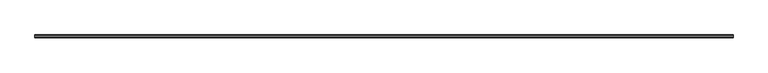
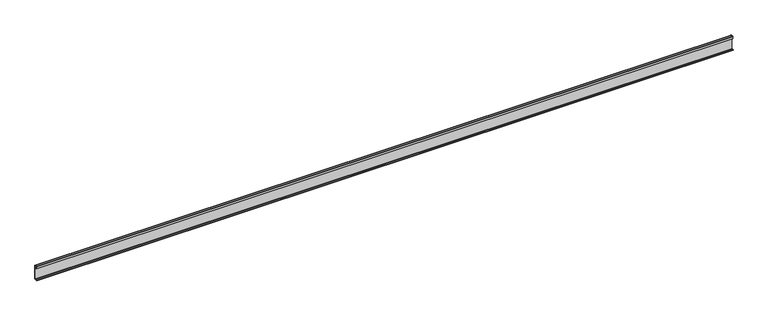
"""IFC4 building model written with IfcOpenShell, lengths in millimetres: proxy geometry, Weiku - Montante - Capa de folha 02.3.02.406 : Weiku - Montante - Capa de folha 02.3.02.406."""

import ifcopenshell
import ifcopenshell.guid

model = None  # the IFC model being written
_history = None  # IfcOwnerHistory: only IFC2X3 demands one
_inside = {}  # id of a spatial element -> (the spatial element, [elements in it])
_under = {}  # id of a project, library or spatial element -> (it, [spatial elements below it])
_declared = {}  # id of a project -> (the project, [libraries it declares])
_typed = {}  # id of a type object -> (the type object, [elements of that type])
_made_of = {}  # id of a material, layer set ... -> (it, [elements and type objects made of it])


def new_model(schema):
    """Start an empty IFC model of exactly this schema.

    Asked for "IFC4X3", IfcOpenShell would pick the latest addendum, in which some entities
    have other attributes; the version numbers below select the first issue.
    IFC2X3 requires an IfcOwnerHistory on every rooted entity: one is made here for all.
    """
    global model, _history
    if schema == "IFC4X3":
        model = ifcopenshell.file(schema_version=(4, 3, 0, 0))
    else:
        model = ifcopenshell.file(schema=schema)
    _inside.clear()
    _under.clear()
    _declared.clear()
    _typed.clear()
    _made_of.clear()
    _history = None
    if model.schema == "IFC2X3":
        org = make("IfcOrganization", Name="unknown")
        user = make(
            "IfcPersonAndOrganization",
            ThePerson=make("IfcPerson", FamilyName="unknown"),
            TheOrganization=org,
        )
        app = make(
            "IfcApplication",
            ApplicationDeveloper=org,
            Version="unknown",
            ApplicationFullName="unknown",
            ApplicationIdentifier="unknown",
        )
        _history = make(
            "IfcOwnerHistory",
            OwningUser=user,
            OwningApplication=app,
            ChangeAction="ADDED",
            CreationDate=0,
        )
    return model


def make(cls, **values):
    """One entity of the class cls with the attributes given. An attribute that is None is left unset."""
    return model.create_entity(
        cls, **{name: value for name, value in values.items() if value is not None}
    )


def rooted(cls, **values):
    """An entity with a GlobalId (a new one), such as an element, a storey or a relation."""
    return make(cls, GlobalId=ifcopenshell.guid.new(), OwnerHistory=_history, **values)


def si_unit(unit_type, name, prefix=None):
    """IfcSIUnit, for example si_unit("LENGTHUNIT", "METRE", prefix="MILLI")."""
    return make("IfcSIUnit", UnitType=unit_type, Prefix=prefix, Name=name)


def assignment(units):
    """IfcUnitAssignment: the units of a project."""
    return None if units is None else make("IfcUnitAssignment", Units=units)


def point(xyz):
    """IfcCartesianPoint."""
    return None if xyz is None else make("IfcCartesianPoint", Coordinates=xyz)


def direction(xyz):
    """IfcDirection."""
    return None if xyz is None else make("IfcDirection", DirectionRatios=xyz)


def frame(location, z_axis=None, x_axis=None):
    """IfcAxis2Placement3D, a coordinate frame: its origin and axes. An axis left out is left unset."""
    return make(
        "IfcAxis2Placement3D",
        Location=point(location),
        Axis=direction(z_axis),
        RefDirection=direction(x_axis),
    )


def frame_2d(location, x_axis=None):
    """IfcAxis2Placement2D, a coordinate frame in the plane: its origin and x axis."""
    return make(
        "IfcAxis2Placement2D", Location=point(location), RefDirection=direction(x_axis)
    )


def origin():
    """The frame at (0, 0, 0) with its axes left unset."""
    return frame((0.0, 0.0, 0.0))


def place(relative_to, where):
    """IfcLocalPlacement: puts the frame where relative to a parent placement (None: the world)."""
    return make(
        "IfcLocalPlacement", PlacementRelTo=relative_to, RelativePlacement=where
    )


def context(
    kind, dimensions, precision=None, world=None, true_north=None, identifier=None
):
    """IfcGeometricRepresentationContext, for example the 3D "Model" context."""
    return make(
        "IfcGeometricRepresentationContext",
        ContextIdentifier=identifier,
        ContextType=kind,
        CoordinateSpaceDimension=dimensions,
        Precision=precision,
        WorldCoordinateSystem=world,
        TrueNorth=true_north,
    )


def project(units=None, contexts=None):
    """IfcProject with its units and contexts."""
    return rooted(
        "IfcProject",
        Name="project",
        RepresentationContexts=contexts,
        UnitsInContext=assignment(units),
    )


def spatial(cls, under=None, at=None, **own):
    """A site, building, storey or space (cls), placed at a placement, below another one or the project."""
    s = rooted(cls, ObjectPlacement=at, **own)
    if under is not None:
        _under.setdefault(under.id(), (under, []))[1].append(s)
    return s


def polyline(points):
    """IfcPolyline through the points."""
    return make("IfcPolyline", Points=[point(p) for p in points])


def circle_curve(where, radius):
    """IfcCircle in the frame where."""
    return make("IfcCircle", Position=where, Radius=radius)


def trimmed(basis, trim1, trim2, sense, master):
    """IfcTrimmedCurve: the piece of a basis curve between two trims."""
    return make(
        "IfcTrimmedCurve",
        BasisCurve=basis,
        Trim1=trim1,
        Trim2=trim2,
        SenseAgreement=sense,
        MasterRepresentation=master,
    )


def segment(curve, same_sense, transition):
    """IfcCompositeCurveSegment."""
    return make(
        "IfcCompositeCurveSegment",
        Transition=transition,
        SameSense=same_sense,
        ParentCurve=curve,
    )


def composite_curve(segments, self_intersect=None):
    """IfcCompositeCurve: segments joined end to end."""
    return make("IfcCompositeCurve", Segments=segments, SelfIntersect=self_intersect)


def outline(outer, holes=None, kind="AREA"):
    """IfcArbitraryClosedProfileDef: a profile drawn as a closed curve; with holes, ...WithVoids."""
    if holes is None:
        return make("IfcArbitraryClosedProfileDef", ProfileType=kind, OuterCurve=outer)
    return make(
        "IfcArbitraryProfileDefWithVoids",
        ProfileType=kind,
        OuterCurve=outer,
        InnerCurves=holes,
    )


def extrude(swept, where, along, depth):
    """IfcExtrudedAreaSolid: the profile swept, set in the frame where, extruded along a direction by depth."""
    return make(
        "IfcExtrudedAreaSolid",
        SweptArea=swept,
        Position=where,
        ExtrudedDirection=direction(along),
        Depth=depth,
    )


def shape(context_of_items, identifier, shape_type, items):
    """IfcShapeRepresentation: the items that make up one representation, for example the "Body"."""
    return make(
        "IfcShapeRepresentation",
        ContextOfItems=context_of_items,
        RepresentationIdentifier=identifier,
        RepresentationType=shape_type,
        Items=items,
    )


def source(mapping_origin, context_of_items, identifier, shape_type, items):
    """IfcRepresentationMap: a shape defined once, which mapped items show again and again."""
    return make(
        "IfcRepresentationMap",
        MappingOrigin=mapping_origin,
        MappedRepresentation=shape(context_of_items, identifier, shape_type, items),
    )


def transform(
    local_origin,
    x_axis=None,
    y_axis=None,
    z_axis=None,
    scale=None,
    scale2=None,
    scale3=None,
    uniform=True,
):
    """IfcCartesianTransformationOperator3D, or its non-uniform kind. x_axis, y_axis, z_axis: its Axis1, 2, 3."""
    if uniform:
        return make(
            "IfcCartesianTransformationOperator3D",
            Axis1=direction(x_axis),
            Axis2=direction(y_axis),
            LocalOrigin=point(local_origin),
            Scale=scale,
            Axis3=direction(z_axis),
        )
    return make(
        "IfcCartesianTransformationOperator3DnonUniform",
        Axis1=direction(x_axis),
        Axis2=direction(y_axis),
        LocalOrigin=point(local_origin),
        Scale=scale,
        Axis3=direction(z_axis),
        Scale2=scale2,
        Scale3=scale3,
    )


def mapped(mapping_source, mapping_target):
    """IfcMappedItem: shows the shape of a source again, moved by a transform."""
    return make(
        "IfcMappedItem", MappingSource=mapping_source, MappingTarget=mapping_target
    )


def made_of(thing, what):
    """Note that an element or type object is made of a material, layer set ...; save() writes the relation."""
    if what is not None:
        _made_of.setdefault(what.id(), (what, []))[1].append(thing)
    return thing


def element(
    cls,
    number,
    at=None,
    inside=None,
    cuts=None,
    type_object=None,
    material=None,
    context=None,
    identifier="Body",
    shape_type=None,
    held_by="IfcProductDefinitionShape",
    body=None,
    shapes=None,
    **own,
):
    """One element of the class cls, such as IfcWall. Its Tag is "e" and its number.

    at: its placement. inside: the storey or other place that contains it. cuts: it is an
    opening in that element (IfcRelVoidsElement). A single representation is given by context,
    identifier, shape_type and body (its items); several are given by shapes. held_by: the class
    of the entity that holds the representations. save() writes the other relations.
    """
    e = rooted(cls, Tag="e%d" % number, ObjectPlacement=at, **own)
    if body is not None:
        shapes = [shape(context, identifier, shape_type, body)]
    if shapes is not None:
        e.Representation = make(held_by, Representations=shapes)
    if inside is not None:
        _inside.setdefault(inside.id(), (inside, []))[1].append(e)
    if cuts is not None:
        rooted(
            "IfcRelVoidsElement", RelatingBuildingElement=cuts, RelatedOpeningElement=e
        )
    if type_object is not None:
        _typed.setdefault(type_object.id(), (type_object, []))[1].append(e)
    return made_of(e, material)


def aggregate(whole, parts):
    """IfcRelAggregates: a whole, such as a stair, and the parts it consists of."""
    return rooted("IfcRelAggregates", RelatingObject=whole, RelatedObjects=parts)


def save(model, path):
    """Write the relations noted so far, then the file.

    IfcRelAggregates (storeys below a building ...), IfcRelContainedInSpatialStructure (elements
    in a storey), IfcRelDefinesByType, IfcRelAssociatesMaterial and IfcRelDeclares: one each for
    every whole, place, type object, material and project.
    """
    for whole, parts in _under.values():
        aggregate(whole, parts)
    for where, things in _inside.values():
        rooted(
            "IfcRelContainedInSpatialStructure",
            RelatedElements=things,
            RelatingStructure=where,
        )
    for kind, things in _typed.values():
        rooted("IfcRelDefinesByType", RelatedObjects=things, RelatingType=kind)
    for what, things in _made_of.values():
        rooted("IfcRelAssociatesMaterial", RelatedObjects=things, RelatingMaterial=what)
    for by, libraries in _declared.values():
        rooted("IfcRelDeclares", RelatingContext=by, RelatedDefinitions=libraries)
    model.write(path)


def generic_models_83b041ef(model_context):
    return source(origin(), model_context, "Body", "SweptSolid", [
        extrude(outline(composite_curve([segment(polyline([(-4.6421508, 2.2715508), (-3.3866, 1.016), (-1.6933, 1.016), (-1.6933, 25.684), (-3.3063, 25.684), (-3.3063, 22.3396), (-4.28, 22.3396), (-4.28, 26.2)]), True, "CONTINUOUS"), segment(trimmed(circle_curve(frame_2d((-3.78, 26.2)), 0.5), [point((-4.28, 26.2))], [point((-3.78, 26.7))], False, "CARTESIAN"), True, "CONTINUOUS"), segment(polyline([(-3.78, 26.7), (-0.5, 26.7)]), True, "CONTINUOUS"), segment(trimmed(circle_curve(frame_2d((-0.5, 26.2)), 0.5), [point((-0.5, 26.7))], [point((0.0, 26.2))], False, "CARTESIAN"), True, "CONTINUOUS"), segment(polyline([(0.0, 26.2), (0.0, 0.5)]), True, "CONTINUOUS"), segment(trimmed(circle_curve(frame_2d((-0.5, 0.5)), 0.5), [point((0.0, 0.5))], [point((-0.5, 0.0))], False, "CARTESIAN"), True, "CONTINUOUS"), segment(polyline([(-0.5, 0.0), (-4.7576991, 0.0)]), True, "CONTINUOUS"), segment(trimmed(circle_curve(frame_2d((-4.7576991, 0.7)), 0.7), [point((-4.7576991, 0.0))], [point((-5.3603515, 1.056104))], False, "CARTESIAN"), True, "CONTINUOUS"), segment(polyline([(-5.3603515, 1.056104), (-4.6421508, 2.2715508)]), True, "CONTINUOUS")], self_intersect=False)), frame((-631.925, 0.0, 0.0), z_axis=(1.0, 0.0, 0.0), x_axis=(0.0, 1.0, 0.0)), (0.0, 0.0, 1.0), 1263.85),
    ])


if __name__ == "__main__":
    model = new_model("IFC4")
    model_context = context("Model", 3, world=origin())
    ifc_project = project(units=[si_unit("LENGTHUNIT", "METRE", prefix="MILLI")], contexts=[model_context])
    site = spatial("IfcSite", under=ifc_project)
    building = spatial("IfcBuilding", under=site)
    placement = place(None, origin())
    generic_models_shape = generic_models_83b041ef(model_context)
    element("IfcBuildingElementProxy", 1, Name="Weiku - Montante - Capa de folha 02.3.02.406 : Weiku - Montante - Capa de folha 02.3.02.406", ObjectType="Weiku - Montante - Capa de folha 02.3.02.406 : Weiku - Montante - Capa de folha 02.3.02.406", at=placement, inside=building, context=model_context, shape_type="MappedRepresentation", body=[
        mapped(generic_models_shape, transform((0.0, 0.0, 0.0), x_axis=(1.0, 0.0, 0.0), y_axis=(0.0, 1.0, 0.0), z_axis=(0.0, 0.0, 1.0))),
    ])
    save(model, "model.ifc")
